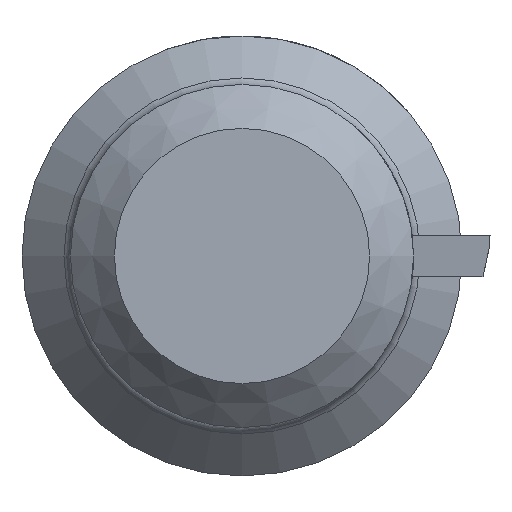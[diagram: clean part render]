
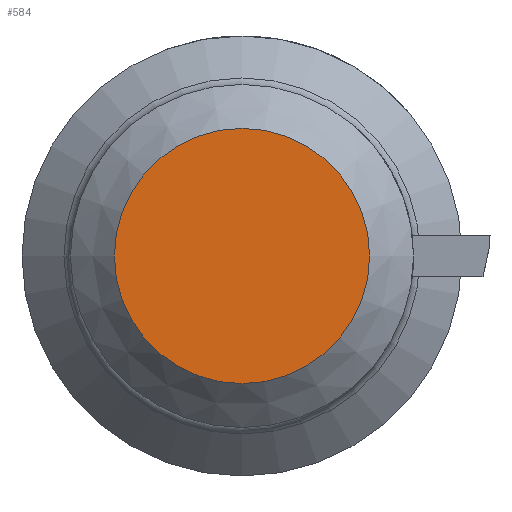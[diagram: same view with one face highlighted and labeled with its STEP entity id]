
A CAD part, left-side view. The second image highlights one B-rep face of the part: STEP entity #584.
In plain terms, the highlighted planar face has unit normal (-1, 0, 0).
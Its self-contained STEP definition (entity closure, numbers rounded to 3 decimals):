
#52=CIRCLE('',#664,2.9);
#99=FACE_OUTER_BOUND('',#133,.T.);
#133=EDGE_LOOP('',(#500));
#267=VERTEX_POINT('',#1054);
#344=EDGE_CURVE('',#267,#267,#52,.T.);
#500=ORIENTED_EDGE('',*,*,#344,.T.);
#520=PLANE('',#665);
#584=ADVANCED_FACE('',(#99),#520,.T.);
#664=AXIS2_PLACEMENT_3D('',#1055,#824,#825);
#665=AXIS2_PLACEMENT_3D('',#1057,#827,#828);
#824=DIRECTION('center_axis',(-1.,0.,0.));
#825=DIRECTION('ref_axis',(0.,0.,1.));
#827=DIRECTION('center_axis',(-1.,0.,0.));
#828=DIRECTION('ref_axis',(0.,0.,1.));
#1054=CARTESIAN_POINT('',(0.,2.9,0.));
#1055=CARTESIAN_POINT('Origin',(0.,0.,0.));
#1057=CARTESIAN_POINT('Origin',(0.,0.,0.));
